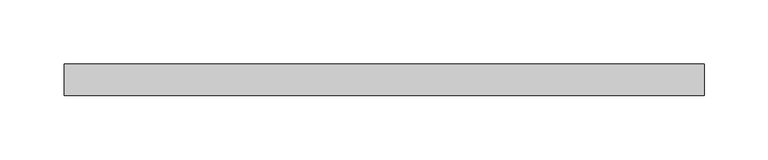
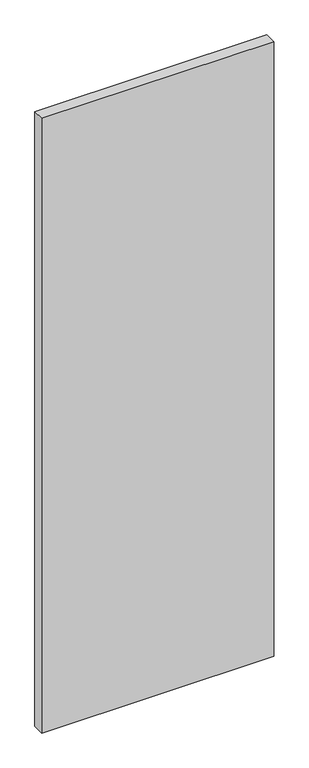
"""IFC4 building model written with IfcOpenShell, lengths in millimetres: plate geometry, Системная панель : ADSK_Cтеклопакет_25 мм."""

import ifcopenshell
import ifcopenshell.guid

model = None  # the IFC model being written
_history = None  # IfcOwnerHistory: only IFC2X3 demands one
_inside = {}  # id of a spatial element -> (the spatial element, [elements in it])
_under = {}  # id of a project, library or spatial element -> (it, [spatial elements below it])
_declared = {}  # id of a project -> (the project, [libraries it declares])
_typed = {}  # id of a type object -> (the type object, [elements of that type])
_made_of = {}  # id of a material, layer set ... -> (it, [elements and type objects made of it])


def new_model(schema):
    """Start an empty IFC model of exactly this schema.

    Asked for "IFC4X3", IfcOpenShell would pick the latest addendum, in which some entities
    have other attributes; the version numbers below select the first issue.
    IFC2X3 requires an IfcOwnerHistory on every rooted entity: one is made here for all.
    """
    global model, _history
    if schema == "IFC4X3":
        model = ifcopenshell.file(schema_version=(4, 3, 0, 0))
    else:
        model = ifcopenshell.file(schema=schema)
    _inside.clear()
    _under.clear()
    _declared.clear()
    _typed.clear()
    _made_of.clear()
    _history = None
    if model.schema == "IFC2X3":
        org = make("IfcOrganization", Name="unknown")
        user = make(
            "IfcPersonAndOrganization",
            ThePerson=make("IfcPerson", FamilyName="unknown"),
            TheOrganization=org,
        )
        app = make(
            "IfcApplication",
            ApplicationDeveloper=org,
            Version="unknown",
            ApplicationFullName="unknown",
            ApplicationIdentifier="unknown",
        )
        _history = make(
            "IfcOwnerHistory",
            OwningUser=user,
            OwningApplication=app,
            ChangeAction="ADDED",
            CreationDate=0,
        )
    return model


def make(cls, **values):
    """One entity of the class cls with the attributes given. An attribute that is None is left unset."""
    return model.create_entity(
        cls, **{name: value for name, value in values.items() if value is not None}
    )


def rooted(cls, **values):
    """An entity with a GlobalId (a new one), such as an element, a storey or a relation."""
    return make(cls, GlobalId=ifcopenshell.guid.new(), OwnerHistory=_history, **values)


def si_unit(unit_type, name, prefix=None):
    """IfcSIUnit, for example si_unit("LENGTHUNIT", "METRE", prefix="MILLI")."""
    return make("IfcSIUnit", UnitType=unit_type, Prefix=prefix, Name=name)


def assignment(units):
    """IfcUnitAssignment: the units of a project."""
    return None if units is None else make("IfcUnitAssignment", Units=units)


def point(xyz):
    """IfcCartesianPoint."""
    return None if xyz is None else make("IfcCartesianPoint", Coordinates=xyz)


def direction(xyz):
    """IfcDirection."""
    return None if xyz is None else make("IfcDirection", DirectionRatios=xyz)


def frame(location, z_axis=None, x_axis=None):
    """IfcAxis2Placement3D, a coordinate frame: its origin and axes. An axis left out is left unset."""
    return make(
        "IfcAxis2Placement3D",
        Location=point(location),
        Axis=direction(z_axis),
        RefDirection=direction(x_axis),
    )


def origin():
    """The frame at (0, 0, 0) with its axes left unset."""
    return frame((0.0, 0.0, 0.0))


def origin_with_axes():
    """The frame at (0, 0, 0) with the z axis (0, 0, 1) and the x axis (1, 0, 0) written out."""
    return frame((0.0, 0.0, 0.0), z_axis=(0.0, 0.0, 1.0), x_axis=(1.0, 0.0, 0.0))


def place(relative_to, where):
    """IfcLocalPlacement: puts the frame where relative to a parent placement (None: the world)."""
    return make(
        "IfcLocalPlacement", PlacementRelTo=relative_to, RelativePlacement=where
    )


def context(
    kind, dimensions, precision=None, world=None, true_north=None, identifier=None
):
    """IfcGeometricRepresentationContext, for example the 3D "Model" context."""
    return make(
        "IfcGeometricRepresentationContext",
        ContextIdentifier=identifier,
        ContextType=kind,
        CoordinateSpaceDimension=dimensions,
        Precision=precision,
        WorldCoordinateSystem=world,
        TrueNorth=true_north,
    )


def project(units=None, contexts=None):
    """IfcProject with its units and contexts."""
    return rooted(
        "IfcProject",
        Name="project",
        RepresentationContexts=contexts,
        UnitsInContext=assignment(units),
    )


def spatial(cls, under=None, at=None, **own):
    """A site, building, storey or space (cls), placed at a placement, below another one or the project."""
    s = rooted(cls, ObjectPlacement=at, **own)
    if under is not None:
        _under.setdefault(under.id(), (under, []))[1].append(s)
    return s


def polyline(points):
    """IfcPolyline through the points."""
    return make("IfcPolyline", Points=[point(p) for p in points])


def outline(outer, holes=None, kind="AREA"):
    """IfcArbitraryClosedProfileDef: a profile drawn as a closed curve; with holes, ...WithVoids."""
    if holes is None:
        return make("IfcArbitraryClosedProfileDef", ProfileType=kind, OuterCurve=outer)
    return make(
        "IfcArbitraryProfileDefWithVoids",
        ProfileType=kind,
        OuterCurve=outer,
        InnerCurves=holes,
    )


def extrude(swept, where, along, depth):
    """IfcExtrudedAreaSolid: the profile swept, set in the frame where, extruded along a direction by depth."""
    return make(
        "IfcExtrudedAreaSolid",
        SweptArea=swept,
        Position=where,
        ExtrudedDirection=direction(along),
        Depth=depth,
    )


def shape(context_of_items, identifier, shape_type, items):
    """IfcShapeRepresentation: the items that make up one representation, for example the "Body"."""
    return make(
        "IfcShapeRepresentation",
        ContextOfItems=context_of_items,
        RepresentationIdentifier=identifier,
        RepresentationType=shape_type,
        Items=items,
    )


def source(mapping_origin, context_of_items, identifier, shape_type, items):
    """IfcRepresentationMap: a shape defined once, which mapped items show again and again."""
    return make(
        "IfcRepresentationMap",
        MappingOrigin=mapping_origin,
        MappedRepresentation=shape(context_of_items, identifier, shape_type, items),
    )


def transform(
    local_origin,
    x_axis=None,
    y_axis=None,
    z_axis=None,
    scale=None,
    scale2=None,
    scale3=None,
    uniform=True,
):
    """IfcCartesianTransformationOperator3D, or its non-uniform kind. x_axis, y_axis, z_axis: its Axis1, 2, 3."""
    if uniform:
        return make(
            "IfcCartesianTransformationOperator3D",
            Axis1=direction(x_axis),
            Axis2=direction(y_axis),
            LocalOrigin=point(local_origin),
            Scale=scale,
            Axis3=direction(z_axis),
        )
    return make(
        "IfcCartesianTransformationOperator3DnonUniform",
        Axis1=direction(x_axis),
        Axis2=direction(y_axis),
        LocalOrigin=point(local_origin),
        Scale=scale,
        Axis3=direction(z_axis),
        Scale2=scale2,
        Scale3=scale3,
    )


def mapped(mapping_source, mapping_target):
    """IfcMappedItem: shows the shape of a source again, moved by a transform."""
    return make(
        "IfcMappedItem", MappingSource=mapping_source, MappingTarget=mapping_target
    )


def made_of(thing, what):
    """Note that an element or type object is made of a material, layer set ...; save() writes the relation."""
    if what is not None:
        _made_of.setdefault(what.id(), (what, []))[1].append(thing)
    return thing


def element(
    cls,
    number,
    at=None,
    inside=None,
    cuts=None,
    type_object=None,
    material=None,
    context=None,
    identifier="Body",
    shape_type=None,
    held_by="IfcProductDefinitionShape",
    body=None,
    shapes=None,
    **own,
):
    """One element of the class cls, such as IfcWall. Its Tag is "e" and its number.

    at: its placement. inside: the storey or other place that contains it. cuts: it is an
    opening in that element (IfcRelVoidsElement). A single representation is given by context,
    identifier, shape_type and body (its items); several are given by shapes. held_by: the class
    of the entity that holds the representations. save() writes the other relations.
    """
    e = rooted(cls, Tag="e%d" % number, ObjectPlacement=at, **own)
    if body is not None:
        shapes = [shape(context, identifier, shape_type, body)]
    if shapes is not None:
        e.Representation = make(held_by, Representations=shapes)
    if inside is not None:
        _inside.setdefault(inside.id(), (inside, []))[1].append(e)
    if cuts is not None:
        rooted(
            "IfcRelVoidsElement", RelatingBuildingElement=cuts, RelatedOpeningElement=e
        )
    if type_object is not None:
        _typed.setdefault(type_object.id(), (type_object, []))[1].append(e)
    return made_of(e, material)


def aggregate(whole, parts):
    """IfcRelAggregates: a whole, such as a stair, and the parts it consists of."""
    return rooted("IfcRelAggregates", RelatingObject=whole, RelatedObjects=parts)


def save(model, path):
    """Write the relations noted so far, then the file.

    IfcRelAggregates (storeys below a building ...), IfcRelContainedInSpatialStructure (elements
    in a storey), IfcRelDefinesByType, IfcRelAssociatesMaterial and IfcRelDeclares: one each for
    every whole, place, type object, material and project.
    """
    for whole, parts in _under.values():
        aggregate(whole, parts)
    for where, things in _inside.values():
        rooted(
            "IfcRelContainedInSpatialStructure",
            RelatedElements=things,
            RelatingStructure=where,
        )
    for kind, things in _typed.values():
        rooted("IfcRelDefinesByType", RelatedObjects=things, RelatingType=kind)
    for what, things in _made_of.values():
        rooted("IfcRelAssociatesMaterial", RelatedObjects=things, RelatingMaterial=what)
    for by, libraries in _declared.values():
        rooted("IfcRelDeclares", RelatingContext=by, RelatedDefinitions=libraries)
    model.write(path)


def plate_fddd94f5(model_context):
    return source(origin(), model_context, "Body", "SweptSolid", [
        extrude(outline(polyline([(250.0, -12.5), (-250.0, -12.5), (-250.0, 12.5), (250.0, 12.5), (250.0, -12.5)])), origin_with_axes(), (0.0, 0.0, 1.0), 1400.0),
    ])


if __name__ == "__main__":
    model = new_model("IFC4")
    model_context = context("Model", 3, world=origin())
    ifc_project = project(units=[si_unit("LENGTHUNIT", "METRE", prefix="MILLI")], contexts=[model_context])
    site = spatial("IfcSite", under=ifc_project)
    building = spatial("IfcBuilding", under=site)
    placement = place(None, origin())
    plate_shape = plate_fddd94f5(model_context)
    element("IfcPlate", 1, ObjectType="Системная панель : ADSK_Cтеклопакет_25 мм", at=placement, inside=building, context=model_context, shape_type="MappedRepresentation", body=[
        mapped(plate_shape, transform((0.0, 0.0, 0.0), x_axis=(1.0, 0.0, 0.0), y_axis=(0.0, 1.0, 0.0), z_axis=(0.0, 0.0, 1.0))),
    ])
    save(model, "model.ifc")
